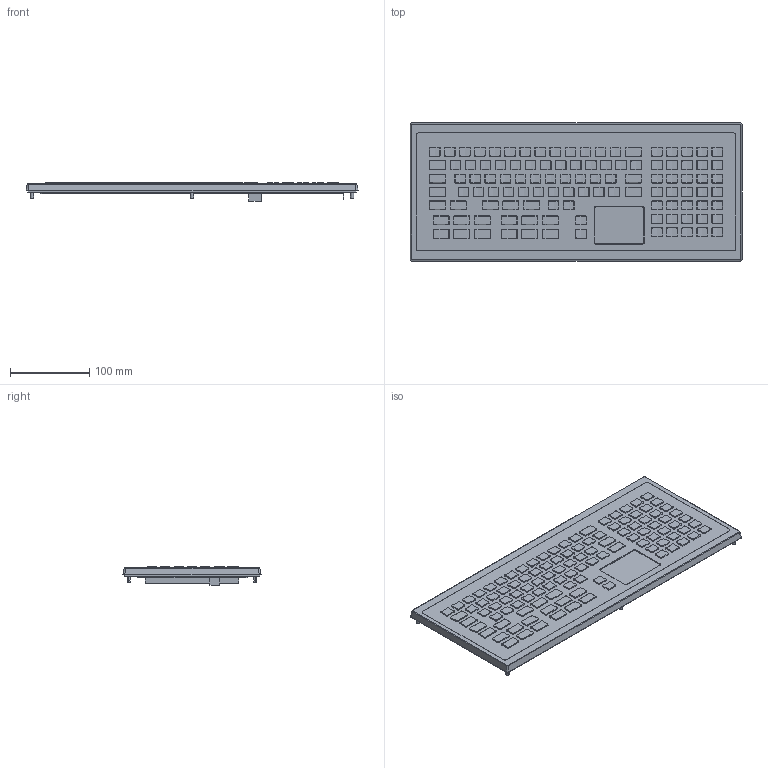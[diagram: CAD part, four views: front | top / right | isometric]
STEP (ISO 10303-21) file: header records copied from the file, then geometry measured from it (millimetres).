
FILE_DESCRIPTION(('Creo Elements/Direct Modeling STEP Export'),'2;1');
FILE_NAME('83760033 HORIZONTAL KEYB 2.0 + TOUCHPAD-B.pkg.stp','2025-04-29T13:07:09',(''),(''),'Creo Elements/Direct Modeling STEP processor for AP214 (Solid Model)','Creo Elements/Direct Modeling 20.4A 18-Oct-2021 (C) Parametric Technology GmbH','');
FILE_SCHEMA(('AUTOMOTIVE_DESIGN { 1 0 10303 214 1 1 1 1 }'));
Products named in the file (2): HORIZONTAL KEYB 2.0 + TOUCHPAD-B
Assembly tree (1 placements, depth 2):
  HORIZONTAL KEYB 2.0 + TOUCHPAD-B
    HORIZONTAL KEYB 2.0 + TOUCHPAD-B
Bounding box: 420 x 175 x 23.69 mm (x, y, z)
Volume: 881898.2 mm3; surface area: 174996.6 mm2
Topology: 1 solids, 1 shells, 2172 faces, 5319 edges, 3280 vertices
Faces by surface type: cylinder 804, plane 574, bspline 448, torus 330, cone 16
Entity records: 113592 total; most frequent: CARTESIAN_POINT 65622, ORIENTED_EDGE 10638, DIRECTION 8576, EDGE_CURVE 5319, VERTEX_POINT 3280, AXIS2_PLACEMENT_3D 3217, EDGE_LOOP 2303, FACE_OUTER_BOUND 2172
